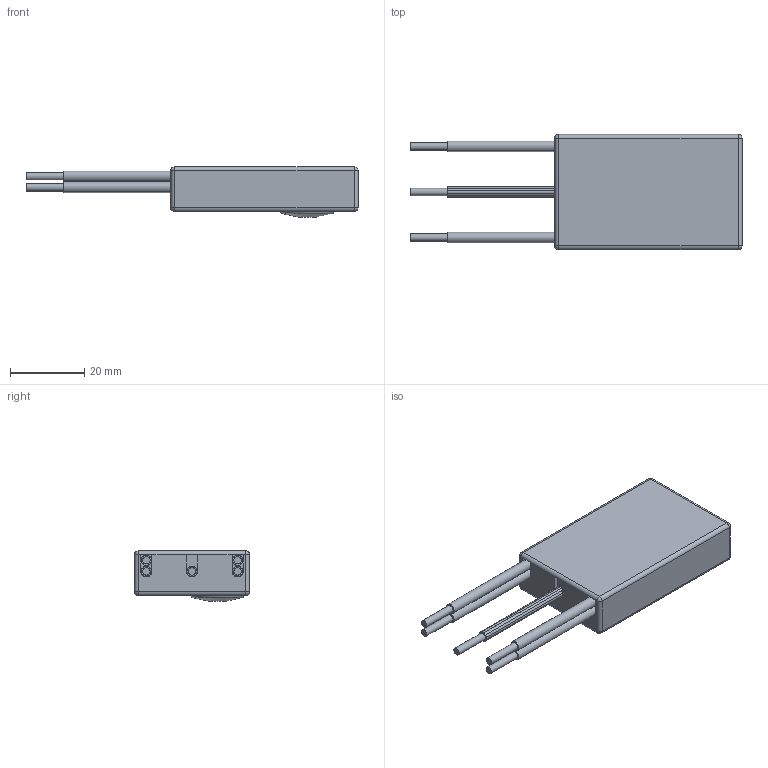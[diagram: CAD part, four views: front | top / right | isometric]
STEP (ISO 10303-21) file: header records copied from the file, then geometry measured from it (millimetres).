
FILE_DESCRIPTION(/* description */ (''),/* implementation_level */ '2;1');
FILE_NAME(/* name */ 'K:\PROJEKTY ROZPRACOVANÉ\MODELY DO KATALOGU\ZS-1\3D - STEP\HSAA-2 NPE LED S.stp',/* time_stamp */ '2022-08-03T11:54:23+02:00',/* author */ ('miko'),/* organization */ (''),/* preprocessor_version */ 'ST-DEVELOPER v18.1',/* originating_system */ 'Autodesk Inventor 2022',/* authorisation */ '');
FILE_SCHEMA (('AUTOMOTIVE_DESIGN { 1 0 10303 214 3 1 1 }'));
Length unit declared in the file: millimetre
Products named in the file (1): HSAA-2 NPE LED S
Bounding box: 89.5 x 31 x 13.5 mm (x, y, z)
Volume: 19892.4 mm3; surface area: 6630.4 mm2
Topology: 1 solids, 1 shells, 88 faces, 194 edges, 119 vertices
Faces by surface type: plane 41, cylinder 37, sphere 8, torus 1, cone 1
Full cylindrical faces by diameter (mm): 2 x5, 2.8 x4, 14.3 x1
Entity records: 2545 total; most frequent: DIRECTION 450, CARTESIAN_POINT 402, ORIENTED_EDGE 388, EDGE_CURVE 194, AXIS2_PLACEMENT_3D 167, VERTEX_POINT 119, LINE 116, VECTOR 116
